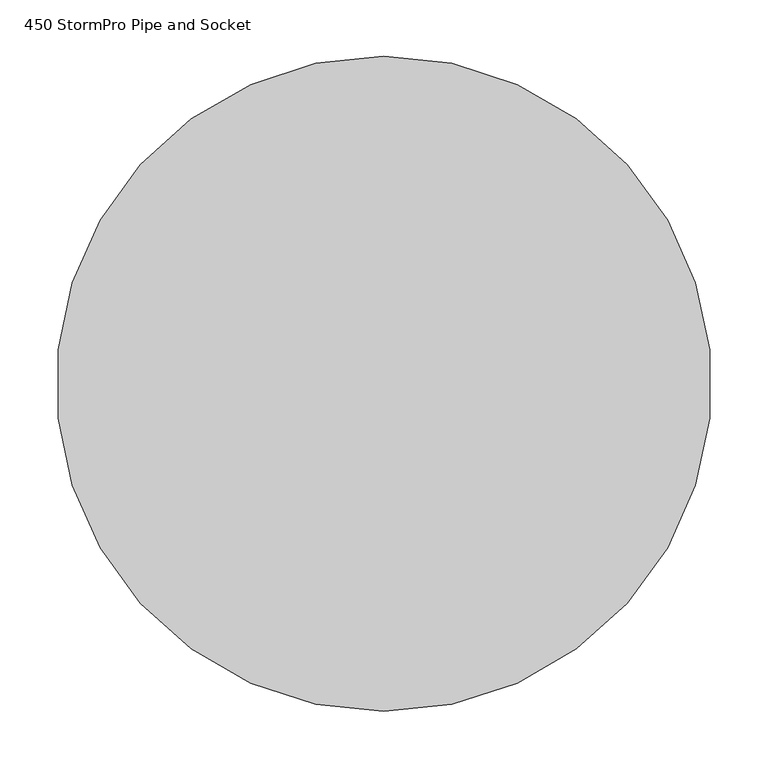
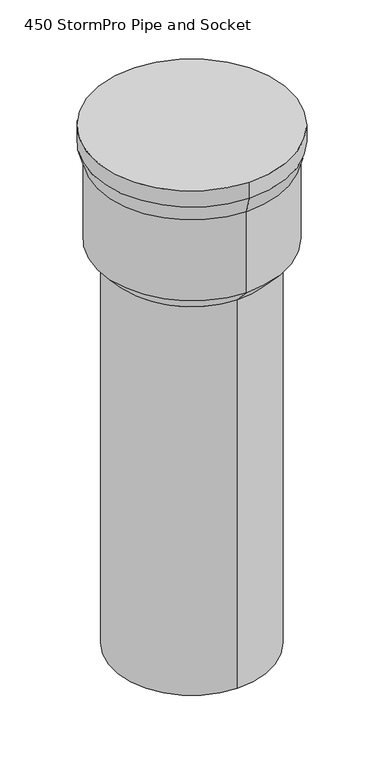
"""IFC4 building model written with IfcOpenShell, lengths in millimetres: proxy geometry, 450 StormPro Pipe and Socket."""

from ifc_helpers import new_model, si_unit, frame, origin, place, context, project, spatial, polyline, circle_curve, source, transform, mapped, element, save
from ifc_brep_helpers import plane_surface, cylinder_surface, revolved_surface, advanced_brep


def proxy_450_stormpro_pipe_and_socket_72c2e627(model_context):
    return source(origin(), model_context, "Body", "AdvancedBrep", [
        advanced_brep(
        [(0.0, 231.0, 2700.0), (0.0, 276.0, 2750.0), (0.0, -276.0, 2750.0), (0.0, -231.0, 2700.0), (0.0, 231.0, 1500.0), (0.0, -231.0, 1500.0), (0.0, 291.0, 3050.0), (0.0, 291.0, 3100.0), (0.0, -291.0, 3100.0), (0.0, -291.0, 3050.0), (0.0, 276.0, 3000.0), (0.0, -276.0, 3000.0), (-199.6867895, -116.1300396, 1500.0)],
        [
            (0, 1),
            (1, 2, circle_curve(frame((0.0, 0.0, 2750.0), z_axis=(0.0, 0.0, -1.0), x_axis=(0.0, -1.0, 0.0)), 276.0)),
            (2, 3),
            (3, 0, circle_curve(frame((0.0, 0.0, 2700.0), z_axis=(0.0, 0.0, 1.0), x_axis=(0.0, -1.0, 0.0)), 231.0)),
            (4, 0),
            (3, 5),
            (5, 4, circle_curve(frame((0.0, 0.0, 1500.0), z_axis=(0.0, 0.0, 1.0), x_axis=(0.0, 1.0, 0.0)), 231.0)),
            (6, 7),
            (7, 8, circle_curve(frame((0.0, 0.0, 3100.0), z_axis=(0.0, 0.0, -1.0), x_axis=(0.0, 1.0, 0.0)), 291.0)),
            (8, 9),
            (9, 6, circle_curve(frame((0.0, 0.0, 3050.0), z_axis=(0.0, 0.0, 1.0), x_axis=(0.0, 1.0, 0.0)), 291.0)),
            (10, 6),
            (9, 11),
            (11, 10, circle_curve(frame((0.0, 0.0, 3000.0), z_axis=(0.0, 0.0, 1.0), x_axis=(0.0, -1.0, 0.0)), 276.0)),
            (1, 10),
            (11, 2),
            (7, 8, circle_curve(frame((0.0, 0.0, 3100.0), z_axis=(0.0, 0.0, 1.0), x_axis=(0.0, 1.0, 0.0)), 291.0)),
            (5, 12, circle_curve(frame((0.0, 0.0, 1500.0), z_axis=(0.0, 0.0, -1.0), x_axis=(0.0, 1.0, 0.0)), 231.0)),
            (12, 4, circle_curve(frame((0.0, 0.0, 1500.0), z_axis=(0.0, 0.0, -1.0), x_axis=(0.0, 1.0, 0.0)), 231.0)),
            (1, 2, circle_curve(frame((0.0, 0.0, 2750.0), z_axis=(0.0, 0.0, 1.0), x_axis=(0.0, 1.0, 0.0)), 276.0)),
            (11, 10, circle_curve(frame((0.0, 0.0, 3000.0), z_axis=(0.0, 0.0, -1.0), x_axis=(0.0, 1.0, 0.0)), 276.0)),
            (9, 6, circle_curve(frame((0.0, 0.0, 3050.0), z_axis=(0.0, 0.0, -1.0), x_axis=(0.0, 1.0, 0.0)), 291.0)),
            (3, 0, circle_curve(frame((0.0, 0.0, 2700.0), z_axis=(0.0, 0.0, -1.0), x_axis=(0.0, 1.0, 0.0)), 231.0)),
        ],
        [
            revolved_surface(polyline([(0.0, 231.0000000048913, 2700.0), (0.0, 276.0, 2750.0)]), (0.0, 0.0, 2443.3333333), (0.0, 0.0, 1.0)),
            cylinder_surface(frame((0.0, 0.0, 1350.0), z_axis=(0.0, 0.0, 1.0), x_axis=(0.0, 1.0, 0.0)), 231.0),
            cylinder_surface(frame((0.0, 0.0, 3075.0), z_axis=(0.0, 0.0, 1.0), x_axis=(0.0, 1.0, 0.0)), 291.0),
            revolved_surface(polyline([(0.0, 276.0, 3000.0), (0.0, 291.0, 3050.0)]), (0.0, 0.0, 2080.0), (0.0, 0.0, 1.0)),
            cylinder_surface(frame((0.0, 0.0, 2875.0), z_axis=(0.0, 0.0, 1.0), x_axis=(0.0, 1.0, 0.0)), 276.0),
            plane_surface(frame((0.0, 285.0, 3100.0), z_axis=(0.0, 0.0, 1.0), x_axis=(1.0, 0.0, 0.0))),
            plane_surface(frame((0.0, 0.0, 1500.0), z_axis=(0.0, 0.0, -1.0), x_axis=(-0.8644449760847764, -0.5027274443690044, 0.0))),
        ],
        [
            (0, [[1, 2, 3, 4]]),
            (1, [[5, -4, 6, 7]]),
            (2, [[8, 9, 10, 11]]),
            (3, [[12, -11, 13, 14]]),
            (4, [[15, -14, 16, -2]]),
            (5, [[17, -9]]),
            (6, [[18, 19, -7]]),
            (4, [[-15, 20, -16, 21]]),
            (3, [[-12, -21, -13, 22]]),
            (2, [[-8, -22, -10, -17]]),
            (1, [[-5, -19, -18, -6, 23]]),
            (0, [[-1, -23, -3, -20]]),
        ],
    ),
    ])


if __name__ == "__main__":
    model = new_model("IFC4")
    model_context = context("Model", 3, world=origin())
    ifc_project = project(units=[si_unit("LENGTHUNIT", "METRE", prefix="MILLI")], contexts=[model_context])
    site = spatial("IfcSite", under=ifc_project)
    building = spatial("IfcBuilding", under=site)
    placement = place(None, origin())
    proxy_450_stormpro_pipe_and_socket_shape = proxy_450_stormpro_pipe_and_socket_72c2e627(model_context)
    element("IfcBuildingElementProxy", 1, Name="450 StormPro Pipe and Socket", ObjectType="450 StormPro Pipe and Socket", at=placement, inside=building, context=model_context, shape_type="MappedRepresentation", body=[
        mapped(proxy_450_stormpro_pipe_and_socket_shape, transform((0.0, 0.0, 0.0), x_axis=(1.0, 0.0, 0.0), y_axis=(0.0, 1.0, 0.0), z_axis=(0.0, 0.0, 1.0))),
    ])
    save(model, "model.ifc")
